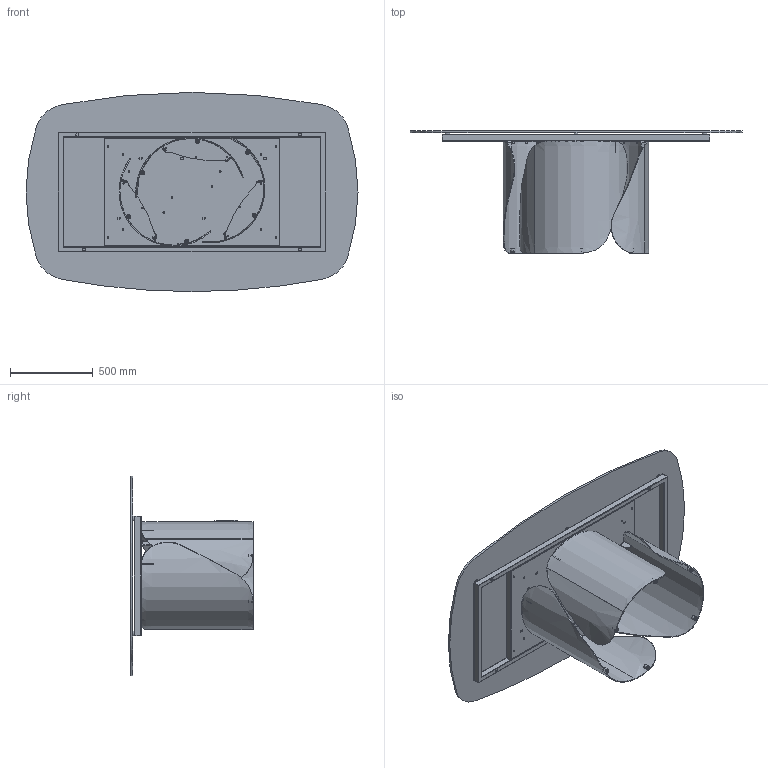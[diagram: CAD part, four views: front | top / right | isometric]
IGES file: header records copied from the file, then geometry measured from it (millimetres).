
Start section: SolidWorks IGES file using analytic representation for surfaces
Global section: file name: Y:\eforma\TECNICO\SOLIDWORKS\E-FORMA\1-TAVOLI\ONDA\02 parts\ON41G.IGS; native system: SolidWorks 2022; preprocessor: SolidWorks 2022; author: eforma.tech; date: 240806.155339; units: millimetre
Bounding box: 2000 x 738 x 1200 mm (x, y, z)
Volume: 38924991 mm3; surface area: 10696142.1 mm2
Topology: 63 solids, 63 shells, 1552 faces, 3512 edges, 2116 vertices
Faces by surface type: revolution 914, plane 578, bspline 60
